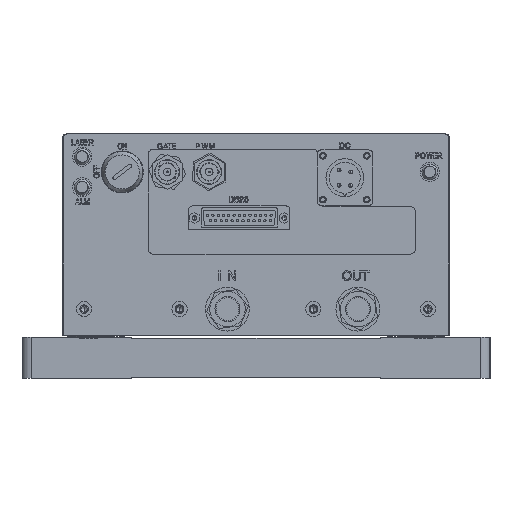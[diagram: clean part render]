
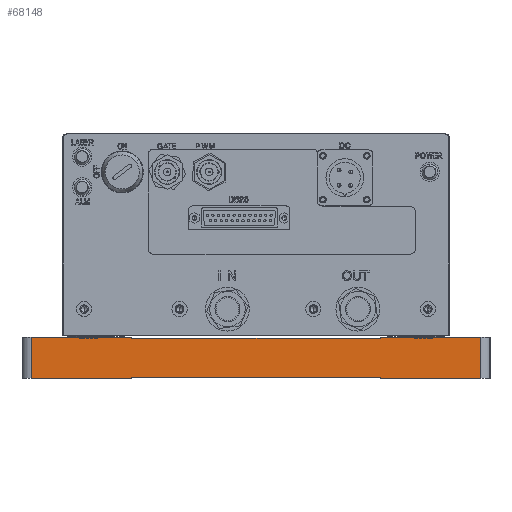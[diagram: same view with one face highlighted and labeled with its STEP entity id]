
A CAD part, left-side view. The second image highlights one B-rep face of the part: STEP entity #68148.
In plain terms, the highlighted planar face has unit normal (-1, 0, 0).
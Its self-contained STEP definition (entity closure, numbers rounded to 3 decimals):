
#211 = EDGE_CURVE ( 'NONE', #91826, #7028, #97752, .T. ) ;
#1434 = CARTESIAN_POINT ( 'NONE',  ( -247.432, 59.369, 317.23 ) ) ;
#1644 = VERTEX_POINT ( 'NONE', #101213 ) ;
#1922 = EDGE_CURVE ( 'NONE', #87584, #35698, #31459, .T. ) ;
#2028 = VECTOR ( 'NONE', #7089, 1000. ) ;
#4530 = CARTESIAN_POINT ( 'NONE',  ( -247.432, 59.369, 337.73 ) ) ;
#7028 = VERTEX_POINT ( 'NONE', #85767 ) ;
#7089 = DIRECTION ( 'NONE',  ( 0., 0., 1. ) ) ;
#8138 = VECTOR ( 'NONE', #71020, 1000. ) ;
#9032 = EDGE_CURVE ( 'NONE', #22298, #1644, #64270, .T. ) ;
#10444 = VECTOR ( 'NONE', #78073, 1000. ) ;
#12684 = DIRECTION ( 'NONE',  ( 0., 1., 0. ) ) ;
#15580 = VECTOR ( 'NONE', #54160, 1000. ) ;
#17322 = ORIENTED_EDGE ( 'NONE', *, *, #54008, .T. ) ;
#19420 = ORIENTED_EDGE ( 'NONE', *, *, #30384, .F. ) ;
#20879 = CARTESIAN_POINT ( 'NONE',  ( -247.432, 116.869, 338.23 ) ) ;
#22007 = ORIENTED_EDGE ( 'NONE', *, *, #1922, .F. ) ;
#22298 = VERTEX_POINT ( 'NONE', #62974 ) ;
#24101 = VECTOR ( 'NONE', #99394, 1000. ) ;
#25269 = LINE ( 'NONE', #82373, #93707 ) ;
#25517 = CARTESIAN_POINT ( 'NONE',  ( -247.432, 116.869, 338.23 ) ) ;
#25539 = EDGE_CURVE ( 'NONE', #93569, #1644, #69160, .T. ) ;
#26191 = DIRECTION ( 'NONE',  ( 0., 0., -1. ) ) ;
#28740 = DIRECTION ( 'NONE',  ( 0., 1., 0. ) ) ;
#29764 = EDGE_CURVE ( 'NONE', #82570, #100747, #47190, .T. ) ;
#30372 = EDGE_CURVE ( 'NONE', #73697, #82570, #25269, .T. ) ;
#30384 = EDGE_CURVE ( 'NONE', #73697, #33221, #36276, .T. ) ;
#31186 = VECTOR ( 'NONE', #67558, 1000. ) ;
#31459 = LINE ( 'NONE', #92141, #15580 ) ;
#33221 = VERTEX_POINT ( 'NONE', #83702 ) ;
#33432 = LINE ( 'NONE', #80869, #40660 ) ;
#33544 = CARTESIAN_POINT ( 'NONE',  ( -247.432, 116.869, 316.73 ) ) ;
#35698 = VERTEX_POINT ( 'NONE', #72594 ) ;
#36276 = LINE ( 'NONE', #90894, #98565 ) ;
#36591 = CARTESIAN_POINT ( 'NONE',  ( -247.432, 59.369, 317.23 ) ) ;
#36721 = VECTOR ( 'NONE', #100917, 1000. ) ;
#39912 = LINE ( 'NONE', #99266, #2028 ) ;
#40504 = AXIS2_PLACEMENT_3D ( 'NONE', #33544, #47161, #69808 ) ;
#40660 = VECTOR ( 'NONE', #26191, 1000. ) ;
#42934 = EDGE_CURVE ( 'NONE', #33221, #7028, #39912, .T. ) ;
#44762 = CARTESIAN_POINT ( 'NONE',  ( -247.432, 59.369, 317.23 ) ) ;
#45007 = EDGE_CURVE ( 'NONE', #87120, #87584, #51042, .T. ) ;
#46406 = CARTESIAN_POINT ( 'NONE',  ( -247.432, 59.369, 338.23 ) ) ;
#47161 = DIRECTION ( 'NONE',  ( 1., 0., 0. ) ) ;
#47190 = LINE ( 'NONE', #25517, #8138 ) ;
#47948 = CARTESIAN_POINT ( 'NONE',  ( -247.432, 111.869, 338.23 ) ) ;
#51042 = LINE ( 'NONE', #44762, #24101 ) ;
#51917 = DIRECTION ( 'NONE',  ( 0., -1., 0. ) ) ;
#54008 = EDGE_CURVE ( 'NONE', #93569, #91826, #99026, .T. ) ;
#54160 = DIRECTION ( 'NONE',  ( 0., 1., 0. ) ) ;
#54540 = CARTESIAN_POINT ( 'NONE',  ( -247.432, 59.369, 316.73 ) ) ;
#54689 = PLANE ( 'NONE',  #40504 ) ;
#59050 = VECTOR ( 'NONE', #12684, 1000. ) ;
#59137 = DIRECTION ( 'NONE',  ( 0., 0., 1. ) ) ;
#59665 = CARTESIAN_POINT ( 'NONE',  ( -247.432, 116.869, 316.73 ) ) ;
#61518 = LINE ( 'NONE', #36591, #59050 ) ;
#62974 = CARTESIAN_POINT ( 'NONE',  ( -247.432, -70.631, 317.23 ) ) ;
#63383 = ORIENTED_EDGE ( 'NONE', *, *, #42934, .F. ) ;
#64270 = LINE ( 'NONE', #69920, #10444 ) ;
#65284 = CARTESIAN_POINT ( 'NONE',  ( -247.432, -123.131, 338.23 ) ) ;
#67558 = DIRECTION ( 'NONE',  ( 0., 1., 0. ) ) ;
#68148 = ADVANCED_FACE ( 'NONE', ( #75272 ), #54689, .F. ) ;
#69160 = LINE ( 'NONE', #59665, #31186 ) ;
#69808 = DIRECTION ( 'NONE',  ( 0., 0., 1. ) ) ;
#69920 = CARTESIAN_POINT ( 'NONE',  ( -247.432, -70.631, 317.23 ) ) ;
#70878 = VECTOR ( 'NONE', #28740, 1000. ) ;
#71020 = DIRECTION ( 'NONE',  ( 0., 1., 0. ) ) ;
#71237 = EDGE_CURVE ( 'NONE', #100747, #35698, #33432, .T. ) ;
#72594 = CARTESIAN_POINT ( 'NONE',  ( -247.432, 111.869, 316.73 ) ) ;
#73259 = ORIENTED_EDGE ( 'NONE', *, *, #211, .T. ) ;
#73697 = VERTEX_POINT ( 'NONE', #4530 ) ;
#75272 = FACE_OUTER_BOUND ( 'NONE', #84633, .T. ) ;
#78073 = DIRECTION ( 'NONE',  ( 0., 0., -1. ) ) ;
#80794 = ORIENTED_EDGE ( 'NONE', *, *, #45007, .F. ) ;
#80869 = CARTESIAN_POINT ( 'NONE',  ( -247.432, 111.869, 316.73 ) ) ;
#82373 = CARTESIAN_POINT ( 'NONE',  ( -247.432, 59.369, 337.73 ) ) ;
#82570 = VERTEX_POINT ( 'NONE', #46406 ) ;
#83702 = CARTESIAN_POINT ( 'NONE',  ( -247.432, -70.631, 337.73 ) ) ;
#84633 = EDGE_LOOP ( 'NONE', ( #22007, #80794, #87664, #96318, #98212, #17322, #73259, #63383, #19420, #91896, #92749, #101355 ) ) ;
#85767 = CARTESIAN_POINT ( 'NONE',  ( -247.432, -70.631, 338.23 ) ) ;
#87120 = VERTEX_POINT ( 'NONE', #1434 ) ;
#87584 = VERTEX_POINT ( 'NONE', #54540 ) ;
#87664 = ORIENTED_EDGE ( 'NONE', *, *, #88446, .F. ) ;
#88446 = EDGE_CURVE ( 'NONE', #22298, #87120, #61518, .T. ) ;
#90894 = CARTESIAN_POINT ( 'NONE',  ( -247.432, -70.631, 337.73 ) ) ;
#91826 = VERTEX_POINT ( 'NONE', #65284 ) ;
#91896 = ORIENTED_EDGE ( 'NONE', *, *, #30372, .T. ) ;
#92141 = CARTESIAN_POINT ( 'NONE',  ( -247.432, 116.869, 316.73 ) ) ;
#92749 = ORIENTED_EDGE ( 'NONE', *, *, #29764, .T. ) ;
#93569 = VERTEX_POINT ( 'NONE', #96016 ) ;
#93707 = VECTOR ( 'NONE', #59137, 1000. ) ;
#96016 = CARTESIAN_POINT ( 'NONE',  ( -247.432, -123.131, 316.73 ) ) ;
#96318 = ORIENTED_EDGE ( 'NONE', *, *, #9032, .T. ) ;
#97752 = LINE ( 'NONE', #20879, #70878 ) ;
#98212 = ORIENTED_EDGE ( 'NONE', *, *, #25539, .F. ) ;
#98565 = VECTOR ( 'NONE', #51917, 1000. ) ;
#99026 = LINE ( 'NONE', #100578, #36721 ) ;
#99266 = CARTESIAN_POINT ( 'NONE',  ( -247.432, -70.631, 337.73 ) ) ;
#99394 = DIRECTION ( 'NONE',  ( 0., 0., -1. ) ) ;
#100578 = CARTESIAN_POINT ( 'NONE',  ( -247.432, -123.131, 316.73 ) ) ;
#100747 = VERTEX_POINT ( 'NONE', #47948 ) ;
#100917 = DIRECTION ( 'NONE',  ( 0., 0., 1. ) ) ;
#101213 = CARTESIAN_POINT ( 'NONE',  ( -247.432, -70.631, 316.73 ) ) ;
#101355 = ORIENTED_EDGE ( 'NONE', *, *, #71237, .T. ) ;
